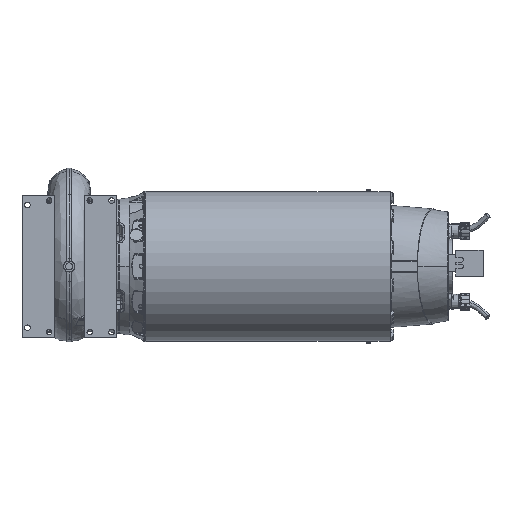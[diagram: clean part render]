
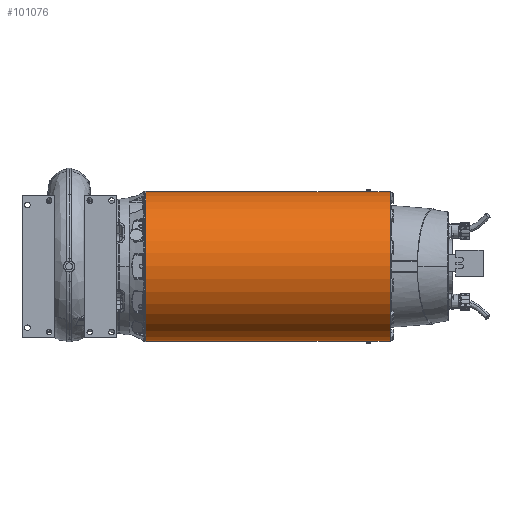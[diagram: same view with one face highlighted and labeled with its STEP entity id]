
A CAD part, front view. The second image highlights one B-rep face of the part: STEP entity #101076.
In plain terms, the highlighted cylindrical face has radius 344 mm (diameter 688 mm), a partial arc.
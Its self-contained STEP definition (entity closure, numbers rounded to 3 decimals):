
#6277 = VERTEX_POINT ( 'NONE', #209155 ) ;
#7940 = LINE ( 'NONE', #24258, #181445 ) ;
#8089 = VECTOR ( 'NONE', #34523, 1000. ) ;
#8209 = CARTESIAN_POINT ( 'NONE',  ( 1105., 0., -344. ) ) ;
#9618 = FACE_OUTER_BOUND ( 'NONE', #153879, .T. ) ;
#10034 = VERTEX_POINT ( 'NONE', #174933 ) ;
#11010 = EDGE_CURVE ( 'NONE', #162747, #25407, #7940, .T. ) ;
#14022 = CARTESIAN_POINT ( 'NONE',  ( 1010.485, -9.5, -343.869 ) ) ;
#15083 =( BOUNDED_CURVE ( )  B_SPLINE_CURVE ( 3, ( #184187, #217964, #50453, #167999 ),
 .UNSPECIFIED., .F., .F. ) 
 B_SPLINE_CURVE_WITH_KNOTS ( ( 4, 4 ),
 ( 1.571, 1.598 ),
 .UNSPECIFIED. ) 
 CURVE ( )  GEOMETRIC_REPRESENTATION_ITEM ( )  RATIONAL_B_SPLINE_CURVE ( ( 1., 1., 1., 1. ) ) 
 REPRESENTATION_ITEM ( '' )  );
#16154 = CARTESIAN_POINT ( 'NONE',  ( 1245.349, -9.5, 343.869 ) ) ;
#16274 = LINE ( 'NONE', #165429, #61005 ) ;
#17825 = CARTESIAN_POINT ( 'NONE',  ( 994.03, 0., -344. ) ) ;
#18659 = VERTEX_POINT ( 'NONE', #157962 ) ;
#19652 = ORIENTED_EDGE ( 'NONE', *, *, #204568, .F. ) ;
#20751 = AXIS2_PLACEMENT_3D ( 'NONE', #165690, #65038, #182600 ) ;
#23317 = ORIENTED_EDGE ( 'NONE', *, *, #140771, .T. ) ;
#24258 = CARTESIAN_POINT ( 'NONE',  ( 1245.349, 0., 344. ) ) ;
#25407 = VERTEX_POINT ( 'NONE', #65504 ) ;
#27729 = CARTESIAN_POINT ( 'NONE',  ( 994.03, 0., -344. ) ) ;
#29398 = ORIENTED_EDGE ( 'NONE', *, *, #203884, .T. ) ;
#31552 = AXIS2_PLACEMENT_3D ( 'NONE', #71966, #189559, #156440 ) ;
#32579 = DIRECTION ( 'NONE',  ( 1., 0., 0. ) ) ;
#34523 = DIRECTION ( 'NONE',  ( -1., 0., 0. ) ) ;
#35716 = EDGE_CURVE ( 'NONE', #162747, #88399, #157767, .T. ) ;
#35867 = CARTESIAN_POINT ( 'NONE',  ( 999.515, -9.5, -343.869 ) ) ;
#36039 = CARTESIAN_POINT ( 'NONE',  ( 997.687, -6.334, 343.956 ) ) ;
#40375 = VERTEX_POINT ( 'NONE', #35867 ) ;
#41194 = DIRECTION ( 'NONE',  ( 1., 0., 0. ) ) ;
#43690 = VERTEX_POINT ( 'NONE', #8209 ) ;
#44099 = VERTEX_POINT ( 'NONE', #14022 ) ;
#45947 = ORIENTED_EDGE ( 'NONE', *, *, #66449, .F. ) ;
#46886 = CARTESIAN_POINT ( 'NONE',  ( 999.515, -9.5, 343.869 ) ) ;
#47508 = ORIENTED_EDGE ( 'NONE', *, *, #11010, .F. ) ;
#47926 = DIRECTION ( 'NONE',  ( -1., 0., 0. ) ) ;
#49142 = CARTESIAN_POINT ( 'NONE',  ( 1015.97, 0., 344. ) ) ;
#50453 = CARTESIAN_POINT ( 'NONE',  ( 1012.313, -6.334, -343.956 ) ) ;
#52776 = VERTEX_POINT ( 'NONE', #17825 ) ;
#54799 = AXIS2_PLACEMENT_3D ( 'NONE', #170358, #69683, #187265 ) ;
#59696 = CARTESIAN_POINT ( 'NONE',  ( 1015.97, 0., 344. ) ) ;
#60103 =( BOUNDED_CURVE ( )  B_SPLINE_CURVE ( 3, ( #59696, #76511, #210966, #110364 ),
 .UNSPECIFIED., .F., .F. ) 
 B_SPLINE_CURVE_WITH_KNOTS ( ( 4, 4 ),
 ( 1.571, 1.598 ),
 .UNSPECIFIED. ) 
 CURVE ( )  GEOMETRIC_REPRESENTATION_ITEM ( )  RATIONAL_B_SPLINE_CURVE ( ( 1., 1., 1., 1. ) ) 
 REPRESENTATION_ITEM ( '' )  );
#61005 = VECTOR ( 'NONE', #47926, 1000. ) ;
#65038 = DIRECTION ( 'NONE',  ( 1., 0., 0. ) ) ;
#65504 = CARTESIAN_POINT ( 'NONE',  ( 994.03, 0., 344. ) ) ;
#66449 = EDGE_CURVE ( 'NONE', #6277, #43690, #173865, .T. ) ;
#67102 = DIRECTION ( 'NONE',  ( 1., 0., 0. ) ) ;
#69683 = DIRECTION ( 'NONE',  ( 1., 0., 0. ) ) ;
#71966 = CARTESIAN_POINT ( 'NONE',  ( 1245.349, 0., 0. ) ) ;
#76511 = CARTESIAN_POINT ( 'NONE',  ( 1014.141, -3.167, 344. ) ) ;
#86176 = LINE ( 'NONE', #151568, #214940 ) ;
#86751 = CARTESIAN_POINT ( 'NONE',  ( 994.03, 0., 344. ) ) ;
#88399 = VERTEX_POINT ( 'NONE', #142903 ) ;
#94687 = VECTOR ( 'NONE', #184402, 1000. ) ;
#99153 = ORIENTED_EDGE ( 'NONE', *, *, #191348, .F. ) ;
#100590 = EDGE_CURVE ( 'NONE', #88399, #52776, #86176, .T. ) ;
#101076 = ADVANCED_FACE ( 'NONE', ( #9618 ), #211970, .T. ) ;
#110364 = CARTESIAN_POINT ( 'NONE',  ( 1010.485, -9.5, 343.869 ) ) ;
#122919 = EDGE_CURVE ( 'NONE', #10034, #43690, #167341, .T. ) ;
#127724 = CARTESIAN_POINT ( 'NONE',  ( 997.687, -6.334, -343.956 ) ) ;
#128439 = CARTESIAN_POINT ( 'NONE',  ( 995.859, -3.167, -344. ) ) ;
#135576 = CARTESIAN_POINT ( 'NONE',  ( -20., 0., 344. ) ) ;
#139459 = LINE ( 'NONE', #167509, #94687 ) ;
#140771 = EDGE_CURVE ( 'NONE', #18659, #162376, #142178, .T. ) ;
#142178 = LINE ( 'NONE', #16154, #8089 ) ;
#142903 = CARTESIAN_POINT ( 'NONE',  ( -20., 0., -344. ) ) ;
#146988 = ORIENTED_EDGE ( 'NONE', *, *, #122919, .T. ) ;
#150369 = ORIENTED_EDGE ( 'NONE', *, *, #35716, .T. ) ;
#151568 = CARTESIAN_POINT ( 'NONE',  ( 1245.349, 0., -344. ) ) ;
#153594 = CARTESIAN_POINT ( 'NONE',  ( 999.515, -9.5, 343.869 ) ) ;
#153879 = EDGE_LOOP ( 'NONE', ( #47508, #150369, #193328, #19652, #99153, #205656, #146988, #45947, #207130, #29398, #23317, #173587 ) ) ;
#156440 = DIRECTION ( 'NONE',  ( 0., 0., -1. ) ) ;
#157767 = CIRCLE ( 'NONE', #20751, 344. ) ;
#157962 = CARTESIAN_POINT ( 'NONE',  ( 1010.485, -9.5, 343.869 ) ) ;
#162021 = VECTOR ( 'NONE', #32579, 1000. ) ;
#162376 = VERTEX_POINT ( 'NONE', #46886 ) ;
#162747 = VERTEX_POINT ( 'NONE', #135576 ) ;
#165429 = CARTESIAN_POINT ( 'NONE',  ( 1245.349, -9.5, -343.869 ) ) ;
#165690 = CARTESIAN_POINT ( 'NONE',  ( -20., 0., 0. ) ) ;
#166309 = CARTESIAN_POINT ( 'NONE',  ( 1245.349, 0., -344. ) ) ;
#167341 = LINE ( 'NONE', #166309, #162021 ) ;
#167509 = CARTESIAN_POINT ( 'NONE',  ( 1245.349, 0., 344. ) ) ;
#167851 =( BOUNDED_CURVE ( )  B_SPLINE_CURVE ( 3, ( #195308, #127724, #128439, #27729 ),
 .UNSPECIFIED., .F., .F. ) 
 B_SPLINE_CURVE_WITH_KNOTS ( ( 4, 4 ),
 ( 1.543, 1.571 ),
 .UNSPECIFIED. ) 
 CURVE ( )  GEOMETRIC_REPRESENTATION_ITEM ( )  RATIONAL_B_SPLINE_CURVE ( ( 1., 1., 1., 1. ) ) 
 REPRESENTATION_ITEM ( '' )  );
#167999 = CARTESIAN_POINT ( 'NONE',  ( 1010.485, -9.5, -343.869 ) ) ;
#169852 = EDGE_CURVE ( 'NONE', #10034, #44099, #15083, .T. ) ;
#170358 = CARTESIAN_POINT ( 'NONE',  ( 1105., 0., 0. ) ) ;
#172684 = EDGE_CURVE ( 'NONE', #162376, #25407, #211606, .T. ) ;
#173587 = ORIENTED_EDGE ( 'NONE', *, *, #172684, .T. ) ;
#173865 = CIRCLE ( 'NONE', #54799, 344. ) ;
#174933 = CARTESIAN_POINT ( 'NONE',  ( 1015.97, 0., -344. ) ) ;
#178242 = EDGE_CURVE ( 'NONE', #208735, #6277, #139459, .T. ) ;
#181445 = VECTOR ( 'NONE', #41194, 1000. ) ;
#182600 = DIRECTION ( 'NONE',  ( 0., 0., -1. ) ) ;
#184187 = CARTESIAN_POINT ( 'NONE',  ( 1015.97, 0., -344. ) ) ;
#184402 = DIRECTION ( 'NONE',  ( 1., 0., 0. ) ) ;
#187265 = DIRECTION ( 'NONE',  ( 0., 0., -1. ) ) ;
#187446 = CARTESIAN_POINT ( 'NONE',  ( 995.859, -3.167, 344. ) ) ;
#189559 = DIRECTION ( 'NONE',  ( 1., 0., 0. ) ) ;
#191348 = EDGE_CURVE ( 'NONE', #44099, #40375, #16274, .T. ) ;
#193328 = ORIENTED_EDGE ( 'NONE', *, *, #100590, .T. ) ;
#195308 = CARTESIAN_POINT ( 'NONE',  ( 999.515, -9.5, -343.869 ) ) ;
#203884 = EDGE_CURVE ( 'NONE', #208735, #18659, #60103, .T. ) ;
#204568 = EDGE_CURVE ( 'NONE', #40375, #52776, #167851, .T. ) ;
#205656 = ORIENTED_EDGE ( 'NONE', *, *, #169852, .F. ) ;
#207130 = ORIENTED_EDGE ( 'NONE', *, *, #178242, .F. ) ;
#208735 = VERTEX_POINT ( 'NONE', #49142 ) ;
#209155 = CARTESIAN_POINT ( 'NONE',  ( 1105., 0., 344. ) ) ;
#210966 = CARTESIAN_POINT ( 'NONE',  ( 1012.313, -6.334, 343.956 ) ) ;
#211606 =( BOUNDED_CURVE ( )  B_SPLINE_CURVE ( 3, ( #153594, #36039, #187446, #86751 ),
 .UNSPECIFIED., .F., .F. ) 
 B_SPLINE_CURVE_WITH_KNOTS ( ( 4, 4 ),
 ( 1.543, 1.571 ),
 .UNSPECIFIED. ) 
 CURVE ( )  GEOMETRIC_REPRESENTATION_ITEM ( )  RATIONAL_B_SPLINE_CURVE ( ( 1., 1., 1., 1. ) ) 
 REPRESENTATION_ITEM ( '' )  );
#211970 = CYLINDRICAL_SURFACE ( 'NONE', #31552, 344. ) ;
#214940 = VECTOR ( 'NONE', #67102, 1000. ) ;
#217964 = CARTESIAN_POINT ( 'NONE',  ( 1014.141, -3.167, -344. ) ) ;
